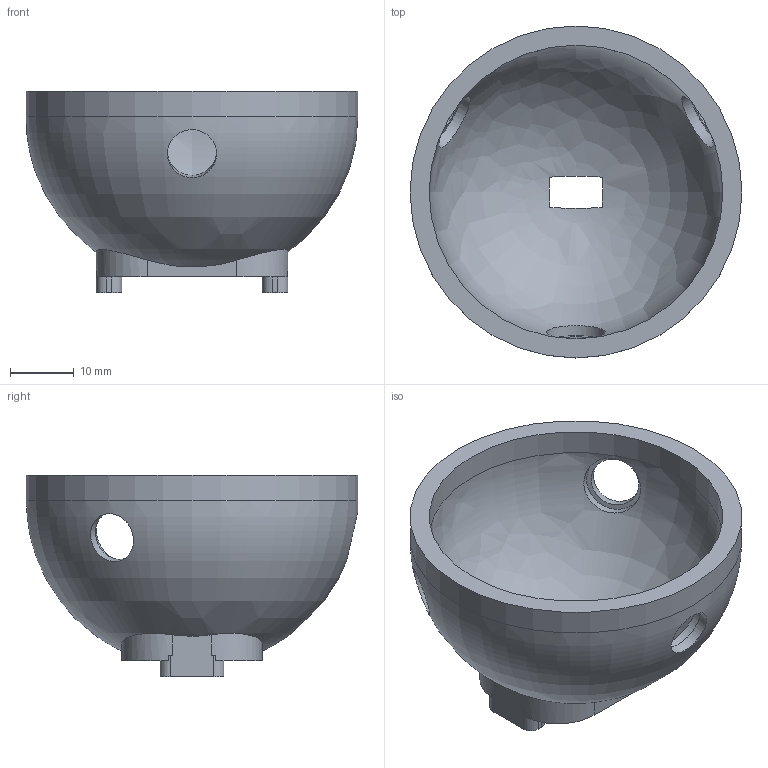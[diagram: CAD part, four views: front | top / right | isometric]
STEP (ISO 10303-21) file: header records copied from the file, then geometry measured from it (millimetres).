
FILE_DESCRIPTION(('Open CASCADE Model'),'2;1');
FILE_NAME('Open CASCADE Shape Model','2026-05-31T19:43:21',('Author'),( 'Open CASCADE'),'Open CASCADE STEP processor 7.6','Open CASCADE 7.6' ,'Unknown');
FILE_SCHEMA(('AP242_MANAGED_MODEL_BASED_3D_ENGINEERING_MIM_LF. {1 0 10303 442 1 1 4 }'));
Length unit declared in the file: millimetre
Products named in the file (1): Open CASCADE STEP translator 7.6 20
Bounding box: 52 x 52 x 31.6 mm (x, y, z)
Volume: 13089.2 mm3; surface area: 9696.2 mm2
Topology: 1 solids, 1 shells, 71 faces, 194 edges, 128 vertices
Faces by surface type: plane 35, cylinder 28, bspline 4, revolution 2, cone 2
Full cylindrical faces by diameter (mm): 2.05 x2, 7.7 x3, 9.2 x3, 46 x1, 52 x1
Entity records: 8318 total; most frequent: CARTESIAN_POINT 4500, DIRECTION 702, ORIENTED_EDGE 384, PCURVE 384, DEFINITIONAL_REPRESENTATION 384, LINE 382, VECTOR 382, EDGE_CURVE 192
